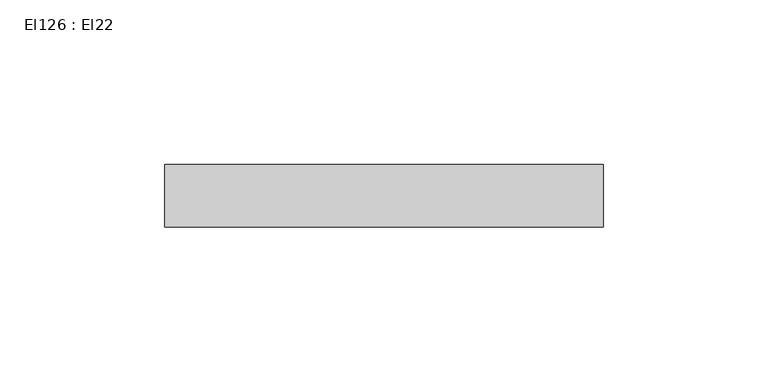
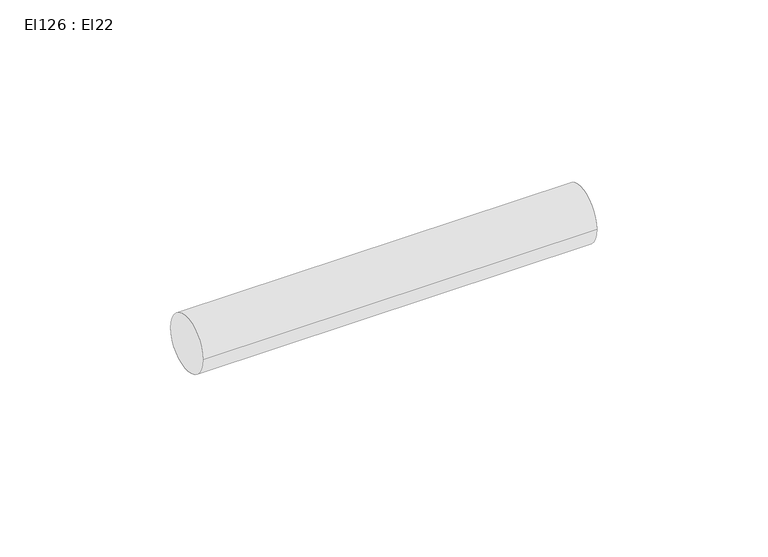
"""IFC4 building model written with IfcOpenShell, lengths in millimetres: cable carrier segment geometry, El126 : El22."""

from ifc_helpers import new_model, si_unit, point, frame, frame_2d, origin, place, context, project, spatial, circle_curve, trimmed, segment, composite_curve, outline, extrude, source, transform, mapped, element, save


def el126_el22_8d276bc7(model_context):
    return source(origin(), model_context, "Body", "SweptSolid", [
        extrude(outline(composite_curve([segment(trimmed(circle_curve(frame_2d((6766.0121745, 2700.0)), 9.5), [point((6756.5121745, 2700.0))], [point((6775.5121745, 2700.0))], False, "CARTESIAN"), True, "CONTINUOUS"), segment(trimmed(circle_curve(frame_2d((6766.0121745, 2700.0)), 9.5), [point((6775.5121745, 2700.0))], [point((6756.5121745, 2700.0))], False, "CARTESIAN"), True, "CONTINUOUS")], self_intersect=False)), frame((1533.1429511, 0.0, 0.0), z_axis=(1.0, 0.0, 0.0), x_axis=(0.0, 1.0, 0.0)), (0.0, 0.0, 1.0), 133.063),
    ])


if __name__ == "__main__":
    model = new_model("IFC4")
    model_context = context("Model", 3, world=origin())
    ifc_project = project(units=[si_unit("LENGTHUNIT", "METRE", prefix="MILLI")], contexts=[model_context])
    site = spatial("IfcSite", under=ifc_project)
    building = spatial("IfcBuilding", under=site)
    placement = place(None, origin())
    el126_el22_shape = el126_el22_8d276bc7(model_context)
    element("IfcCableCarrierSegment", 1, ObjectType="El126 : El22", at=placement, inside=building, context=model_context, shape_type="MappedRepresentation", body=[
        mapped(el126_el22_shape, transform((0.0, 0.0, 0.0), x_axis=(1.0, 0.0, 0.0), y_axis=(0.0, 1.0, 0.0), z_axis=(0.0, 0.0, 1.0))),
    ])
    save(model, "model.ifc")
